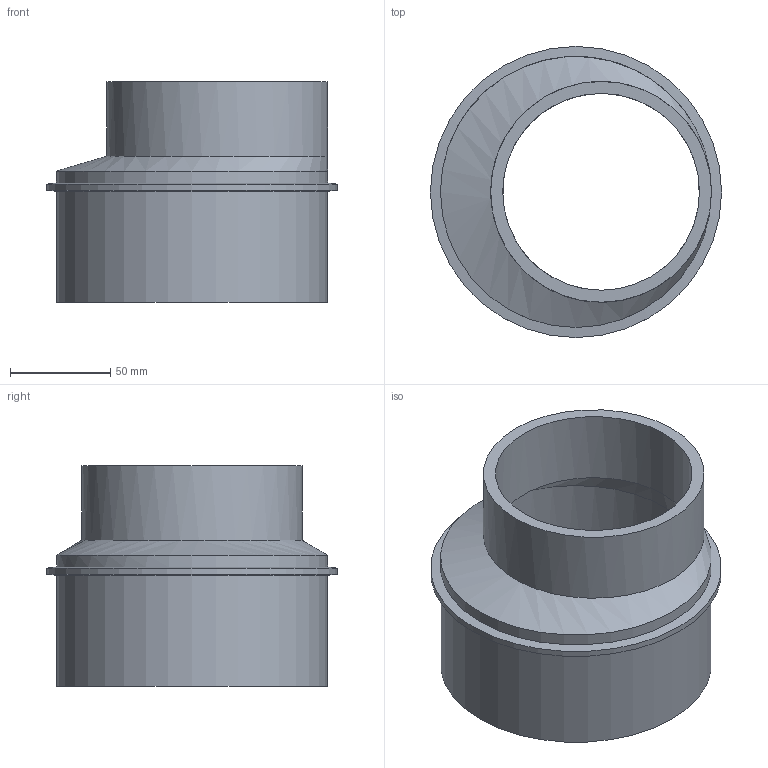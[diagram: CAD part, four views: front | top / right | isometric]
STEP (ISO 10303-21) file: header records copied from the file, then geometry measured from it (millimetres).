
FILE_DESCRIPTION(/* description */ (''),/* implementation_level */ '2;1');
FILE_NAME(/* name */ 'Z:\Geberit\Export\NewStep\Reduktion_Ipart\stp\312100.stp',/* time_stamp */ '2014-04-03T18:14:41+02:00',/* author */ ('nelson'),/* organization */ (''),/* preprocessor_version */ 'ST-DEVELOPER v15.2',/* originating_system */ 'Autodesk Inventor 2014',/* authorisation */ '');
FILE_SCHEMA (('AUTOMOTIVE_DESIGN { 1 0 10303 214 3 1 1 }'));
Length unit declared in the file: millimetre
Products named in the file (1): 312100
Bounding box: 145 x 145 x 110 mm (x, y, z)
Volume: 255805.8 mm3; surface area: 97154.7 mm2
Topology: 1 solids, 1 shells, 12 faces, 28 edges, 18 vertices
Faces by surface type: cylinder 6, cone 2, bspline 2, plane 2
Full cylindrical faces by diameter (mm): 98 x1, 110 x1, 123 x1, 135 x2, 145 x1
Entity records: 355 total; most frequent: CARTESIAN_POINT 83, DIRECTION 54, ORIENTED_EDGE 36, AXIS2_PLACEMENT_3D 27, EDGE_LOOP 22, EDGE_CURVE 18, CIRCLE 16, VERTEX_POINT 16
